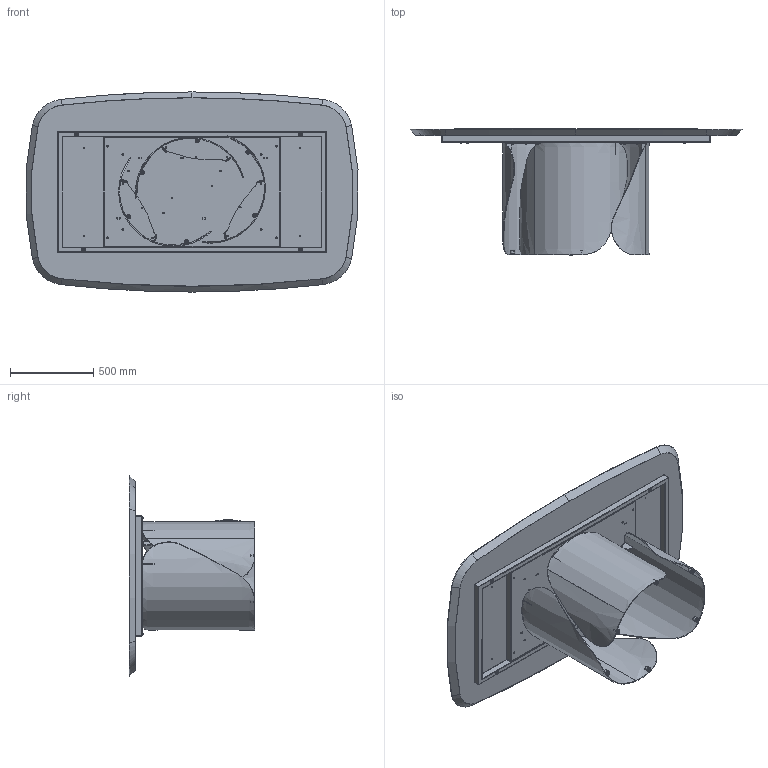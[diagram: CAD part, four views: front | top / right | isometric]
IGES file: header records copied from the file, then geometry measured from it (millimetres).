
Start section: SolidWorks IGES file using analytic representation for surfaces
Global section: file name: Y:\eforma\TECNICO\SOLIDWORKS\E-FORMA\1-TAVOLI\ONDA\02 parts\ON41W.IGS; native system: SolidWorks 2022; preprocessor: SolidWorks 2022; author: eforma.tech; date: 240806.155424; units: millimetre
Bounding box: 1990.53 x 754 x 1200 mm (x, y, z)
Volume: 94353802.8 mm3; surface area: 10864973.1 mm2
Topology: 59 solids, 59 shells, 1742 faces, 3969 edges, 2357 vertices
Faces by surface type: revolution 1064, plane 618, bspline 60
